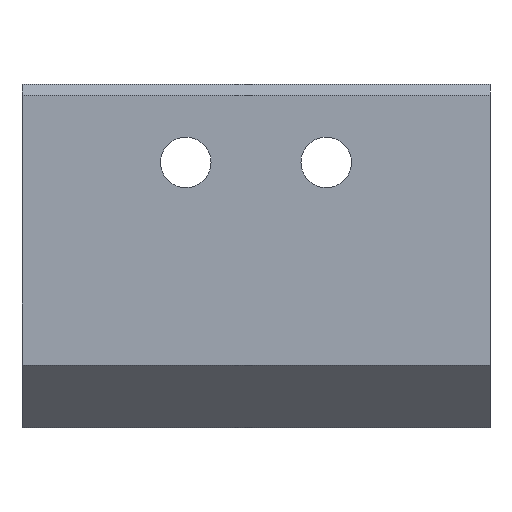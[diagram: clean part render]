
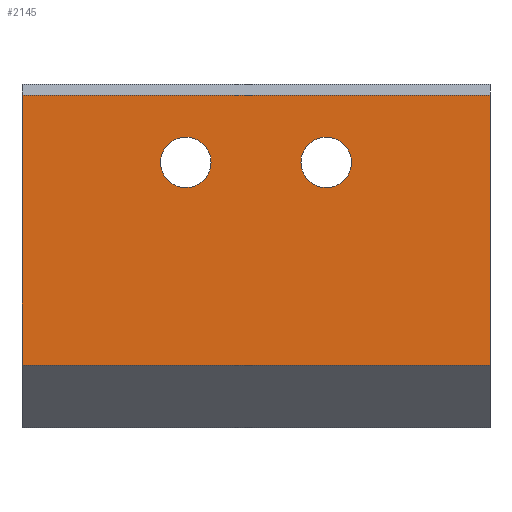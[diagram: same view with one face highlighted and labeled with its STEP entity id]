
A CAD part, front view. The second image highlights one B-rep face of the part: STEP entity #2145.
In plain terms, the highlighted planar face has unit normal (0, -1, 0).
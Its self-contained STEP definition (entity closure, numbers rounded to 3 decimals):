
#1172=CARTESIAN_POINT('',(30.0,-8.,13.3));
#1173=VERTEX_POINT('',#1172);
#1190=CARTESIAN_POINT('',(0.0,-8.,13.3));
#1191=VERTEX_POINT('',#1190);
#1198=CARTESIAN_POINT('',(0.0,-8.,13.3));
#1199=DIRECTION('',(1.0,0.0,0.0));
#1200=VECTOR('',#1199,30.0);
#1201=LINE('',#1198,#1200);
#1202=EDGE_CURVE('',#1191,#1173,#1201,.T.);
#1253=CARTESIAN_POINT('',(0.0,-8.,-4.));
#1254=VERTEX_POINT('',#1253);
#1261=CARTESIAN_POINT('',(0.0,-8.,-4.));
#1262=DIRECTION('',(0.0,0.0,1.0));
#1263=VECTOR('',#1262,17.3);
#1264=LINE('',#1261,#1263);
#1265=EDGE_CURVE('',#1254,#1191,#1264,.T.);
#1358=CARTESIAN_POINT('',(30.0,-8.,-4.));
#1359=VERTEX_POINT('',#1358);
#1366=CARTESIAN_POINT('',(30.0,-8.,-4.));
#1367=DIRECTION('',(-1.0,0.0,0.0));
#1368=VECTOR('',#1367,30.0);
#1369=LINE('',#1366,#1368);
#1370=EDGE_CURVE('',#1359,#1254,#1369,.T.);
#1883=CARTESIAN_POINT('',(21.121,-8.,9.0));
#1884=VERTEX_POINT('',#1883);
#1885=CARTESIAN_POINT('',(19.5,-8.,9.0));
#1886=DIRECTION('',(0.0,1.0,0.0));
#1887=DIRECTION('',(-1.0,0.0,0.0));
#1888=AXIS2_PLACEMENT_3D('',#1885,#1886,#1887);
#1889=CIRCLE('',#1888,1.621);
#1890=EDGE_CURVE('',#1884,#1884,#1889,.T.);
#1993=CARTESIAN_POINT('',(12.121,-8.,9.0));
#1994=VERTEX_POINT('',#1993);
#1995=CARTESIAN_POINT('',(10.5,-8.,9.0));
#1996=DIRECTION('',(0.0,1.0,0.0));
#1997=DIRECTION('',(-1.0,0.0,0.0));
#1998=AXIS2_PLACEMENT_3D('',#1995,#1996,#1997);
#1999=CIRCLE('',#1998,1.621);
#2000=EDGE_CURVE('',#1994,#1994,#1999,.T.);
#2123=CARTESIAN_POINT('',(0.0,-8.,-8.));
#2124=DIRECTION('',(0.0,-1.0,0.0));
#2125=DIRECTION('',(0.0,0.0,-1.0));
#2126=AXIS2_PLACEMENT_3D('',#2123,#2124,#2125);
#2127=PLANE('',#2126);
#2128=ORIENTED_EDGE('',*,*,#1202,.F.);
#2129=ORIENTED_EDGE('',*,*,#1265,.F.);
#2130=ORIENTED_EDGE('',*,*,#1370,.F.);
#2131=CARTESIAN_POINT('',(30.0,-8.,-4.));
#2132=DIRECTION('',(0.0,0.0,1.0));
#2133=VECTOR('',#2132,17.3);
#2134=LINE('',#2131,#2133);
#2135=EDGE_CURVE('',#1359,#1173,#2134,.T.);
#2136=ORIENTED_EDGE('',*,*,#2135,.T.);
#2137=EDGE_LOOP('',(#2128,#2129,#2130,#2136));
#2138=FACE_OUTER_BOUND('',#2137,.T.);
#2139=ORIENTED_EDGE('',*,*,#1890,.T.);
#2140=EDGE_LOOP('',(#2139));
#2141=FACE_BOUND('',#2140,.T.);
#2142=ORIENTED_EDGE('',*,*,#2000,.T.);
#2143=EDGE_LOOP('',(#2142));
#2144=FACE_BOUND('',#2143,.T.);
#2145=ADVANCED_FACE('',(#2138,#2141,#2144),#2127,.T.);
